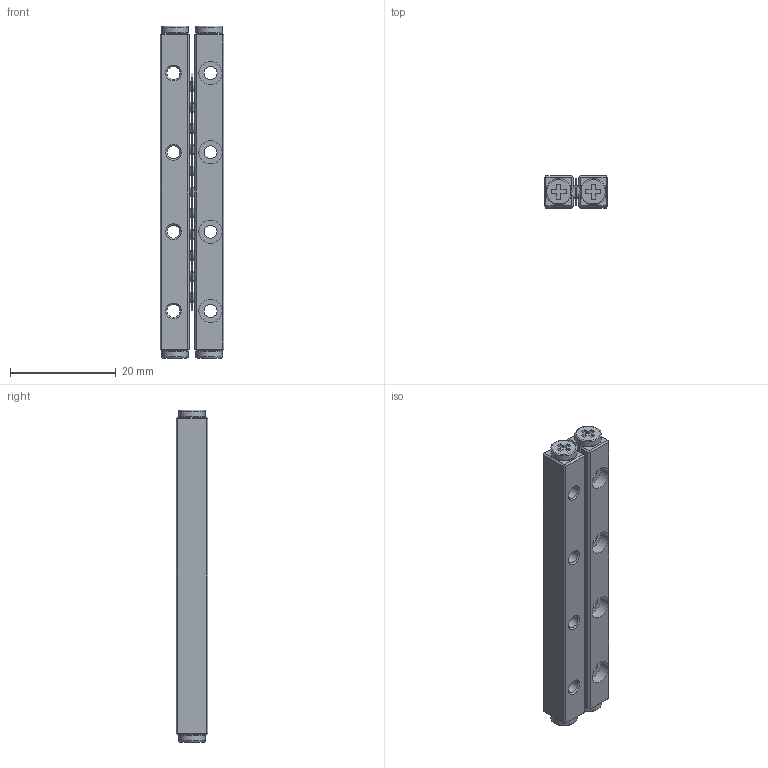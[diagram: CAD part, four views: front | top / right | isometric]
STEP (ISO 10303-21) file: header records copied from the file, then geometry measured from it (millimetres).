
FILE_DESCRIPTION(/* description */ ('Unknown'),/* implementation_level */ '2;1');
FILE_NAME(/* name */ 'VR2-60x11Z',/* time_stamp */ '2025-06-12T09:12:42+08:00',/* author */ ('Unknown'),/* organization */ ('Unknown'),/* preprocessor_version */ 'ST-DEVELOPER v18.102',/* originating_system */ 'Solid Edge',/* authorisation */ 'Unknown');
FILE_SCHEMA (('AUTOMOTIVE_DESIGN {1 0 10303 214 3 1 1}'));
Length unit declared in the file: millimetre
Products named in the file (3): VR2-60x11Z; VR2-60x11Z_rail; VR2-60x11Z_roller
Assembly tree (3 placements, depth 2):
  VR2-60x11Z
    VR2-60x11Z_rail  x2
    VR2-60x11Z_roller
Bounding box: 12 x 6 x 62.8 mm (x, y, z)
Volume: 3632.7 mm3; surface area: 4073.5 mm2
Topology: 3 solids, 3 shells, 313 faces, 902 edges, 588 vertices
Faces by surface type: plane 218, cylinder 79, cone 8, torus 8
Full cylindrical faces by diameter (mm): 2 x11, 2.459 x8, 4.4 x8, 5 x4
Entity records: 8142 total; most frequent: CARTESIAN_POINT 1299, DIRECTION 1292, ORIENTED_EDGE 1260, EDGE_CURVE 630, LINE 442, VECTOR 442, VERTEX_POINT 432, AXIS2_PLACEMENT_3D 425
